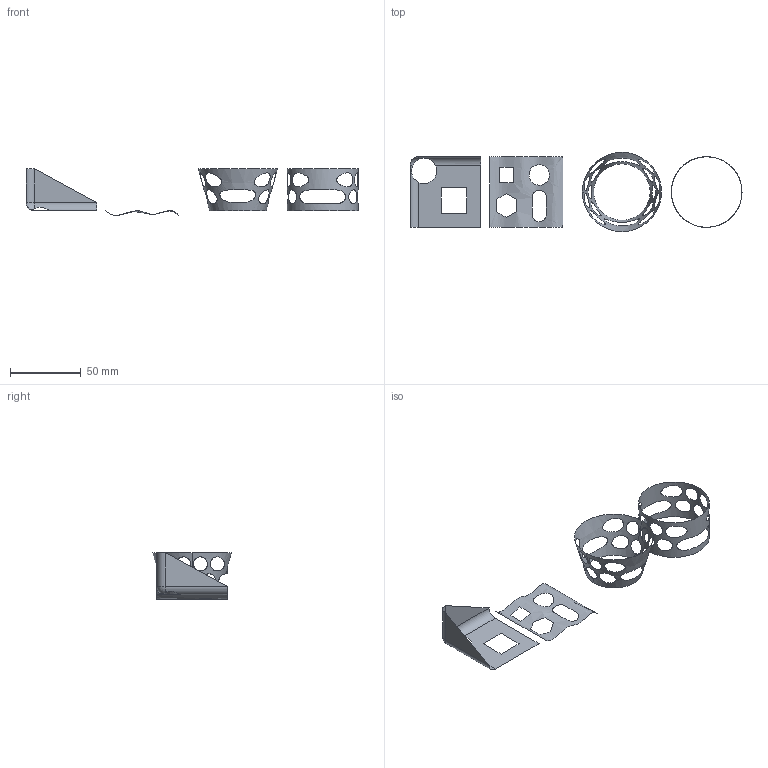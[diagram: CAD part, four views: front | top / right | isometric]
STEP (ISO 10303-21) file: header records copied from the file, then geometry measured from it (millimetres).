
FILE_DESCRIPTION (( 'STEP AP203' ), '1' );
FILE_NAME ('22.1.STEP', '2025-10-31T22:17:25', ( '' ), ( '' ), 'SwSTEP 2.0', 'SolidWorks 2025', '' );
FILE_SCHEMA (( 'CONFIG_CONTROL_DESIGN' ));
Length unit declared in the file: millimetre
Products named in the file (1): 22.1
Bounding box: 235 x 56.08 x 33.11 mm (x, y, z)
Surface area: 11211.3 mm2 (no closed solid volume)
Topology: 0 solids, 4 shells, 12 faces, 125 edges, 109 vertices
Faces by surface type: cylinder 5, plane 3, cone 2, bspline 1, sphere 1
Entity records: 3905 total; most frequent: CARTESIAN_POINT 3068, ORIENTED_EDGE 141, EDGE_CURVE 124, VERTEX_POINT 109, DIRECTION 84, B_SPLINE_CURVE_WITH_KNOTS 79, EDGE_LOOP 45, FACE_BOUND 33
